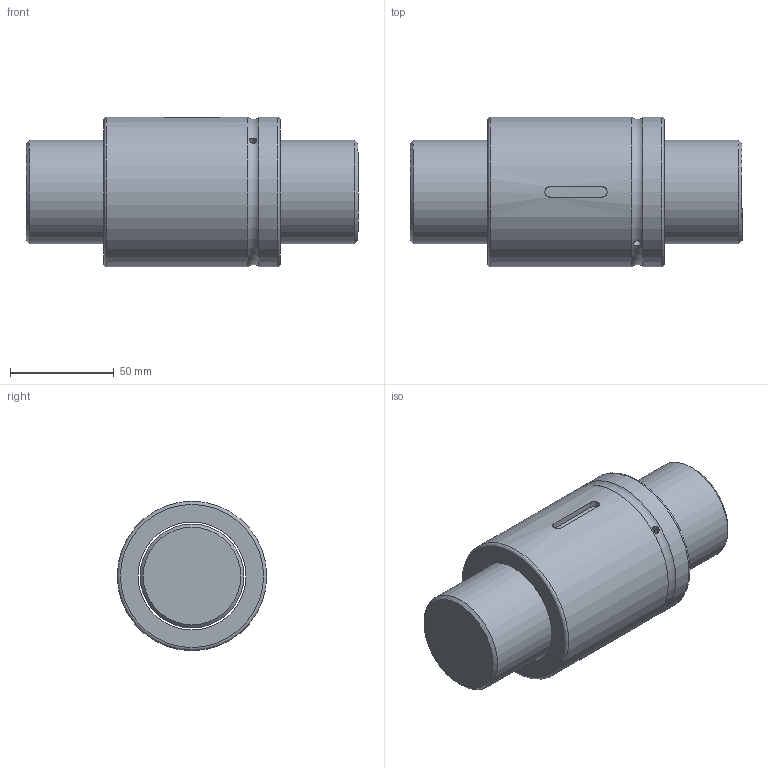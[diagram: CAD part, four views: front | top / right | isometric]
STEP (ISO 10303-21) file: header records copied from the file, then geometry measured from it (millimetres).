
FILE_DESCRIPTION (( 'STEP AP203' ), '1' );
FILE_NAME ('SCNI5010.STEP', '2023-08-16T08:28:33', ( '' ), ( '' ), 'SwSTEP 2.0', 'SolidWorks 2022', '' );
FILE_SCHEMA (( 'CONFIG_CONTROL_DESIGN' ));
Length unit declared in the file: millimetre
Products named in the file (1): SCNI5010
Bounding box: 160 x 72 x 72 mm (x, y, z)
Volume: 477849.8 mm3; surface area: 65846.5 mm2
Topology: 2 solids, 2 shells, 19 faces, 37 edges, 23 vertices
Faces by surface type: cylinder 7, plane 7, torus 3, cone 2
Full cylindrical faces by diameter (mm): 3.5 x1, 50 x1, 52 x1, 72 x2
Entity records: 935 total; most frequent: CARTESIAN_POINT 502, DIRECTION 76, ORIENTED_EDGE 52, EDGE_LOOP 34, AXIS2_PLACEMENT_3D 34, FACE_OUTER_BOUND 27, EDGE_CURVE 26, VERTEX_POINT 22
